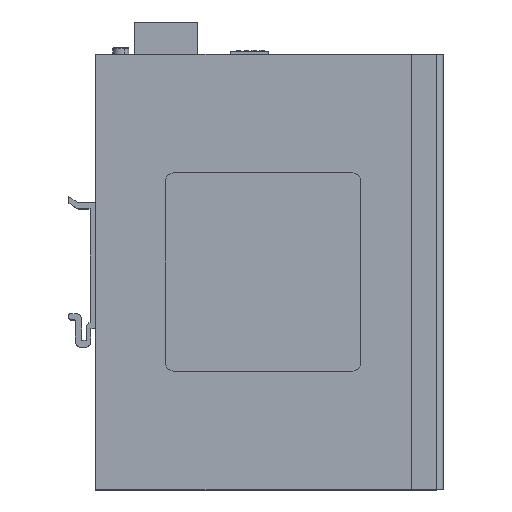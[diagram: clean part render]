
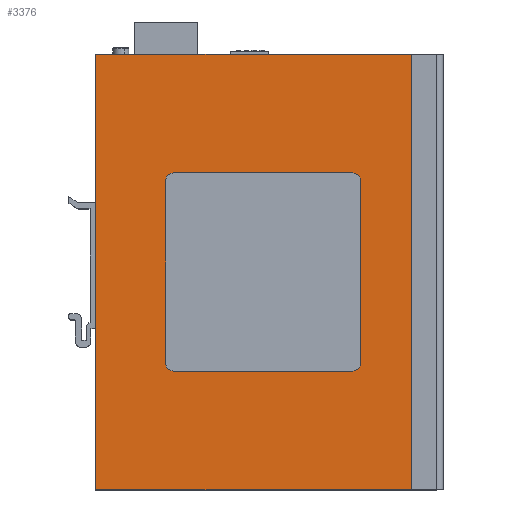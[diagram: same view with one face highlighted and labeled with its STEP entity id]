
A CAD part, top view. The second image highlights one B-rep face of the part: STEP entity #3376.
In plain terms, the highlighted planar face has unit normal (0, 0, 1).
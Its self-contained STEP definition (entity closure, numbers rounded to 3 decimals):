
#3376=ADVANCED_FACE('',(#7567,#7568),#5585,.F.);
#5585=PLANE('',#44245);
#7173=CIRCLE('',#44074,2.5);
#7174=CIRCLE('',#44077,2.5);
#7175=CIRCLE('',#44080,2.5);
#7176=CIRCLE('',#44083,2.5);
#7567=FACE_BOUND('',#8465,.T.);
#7568=FACE_BOUND('',#8466,.T.);
#8465=EDGE_LOOP('',(#14850,#14851,#14852,#14853,#14854,#14855,#14856,#14857));
#8466=EDGE_LOOP('',(#14858,#14859,#14860,#14861));
#14850=ORIENTED_EDGE('',*,*,#29167,.T.);
#14851=ORIENTED_EDGE('',*,*,#29165,.T.);
#14852=ORIENTED_EDGE('',*,*,#29163,.T.);
#14853=ORIENTED_EDGE('',*,*,#29161,.T.);
#14854=ORIENTED_EDGE('',*,*,#29159,.T.);
#14855=ORIENTED_EDGE('',*,*,#29157,.T.);
#14856=ORIENTED_EDGE('',*,*,#29155,.T.);
#14857=ORIENTED_EDGE('',*,*,#29152,.T.);
#14858=ORIENTED_EDGE('',*,*,#29376,.T.);
#14859=ORIENTED_EDGE('',*,*,#29369,.F.);
#14860=ORIENTED_EDGE('',*,*,#29168,.T.);
#14861=ORIENTED_EDGE('',*,*,#29359,.T.);
#24890=VERTEX_POINT('',#67130);
#24891=VERTEX_POINT('',#67131);
#24892=VERTEX_POINT('',#67136);
#24893=VERTEX_POINT('',#67140);
#24894=VERTEX_POINT('',#67144);
#24895=VERTEX_POINT('',#67148);
#24896=VERTEX_POINT('',#67152);
#24897=VERTEX_POINT('',#67156);
#24898=VERTEX_POINT('',#67162);
#24899=VERTEX_POINT('',#67163);
#24911=VERTEX_POINT('',#67843);
#24918=VERTEX_POINT('',#67864);
#29152=EDGE_CURVE('',#24890,#24891,#34702,.T.);
#29155=EDGE_CURVE('',#24892,#24890,#7173,.T.);
#29157=EDGE_CURVE('',#24893,#24892,#34706,.T.);
#29159=EDGE_CURVE('',#24894,#24893,#7174,.T.);
#29161=EDGE_CURVE('',#24895,#24894,#34709,.T.);
#29163=EDGE_CURVE('',#24896,#24895,#7175,.T.);
#29165=EDGE_CURVE('',#24897,#24896,#34712,.T.);
#29167=EDGE_CURVE('',#24891,#24897,#7176,.T.);
#29168=EDGE_CURVE('',#24898,#24899,#34714,.T.);
#29359=EDGE_CURVE('',#24899,#24911,#34899,.T.);
#29369=EDGE_CURVE('',#24898,#24918,#34907,.T.);
#29376=EDGE_CURVE('',#24911,#24918,#34912,.T.);
#34702=LINE('',#67129,#39781);
#34706=LINE('',#67139,#39785);
#34709=LINE('',#67147,#39788);
#34712=LINE('',#67155,#39791);
#34714=LINE('',#67161,#39793);
#34899=LINE('',#67844,#40010);
#34907=LINE('',#67863,#40018);
#34912=LINE('',#67877,#40023);
#39781=VECTOR('',#48620,1.);
#39785=VECTOR('',#48630,1.);
#39788=VECTOR('',#48639,1.);
#39791=VECTOR('',#48648,1.);
#39793=VECTOR('',#48656,1.);
#40010=VECTOR('',#49177,1.);
#40018=VECTOR('',#49195,1.);
#40023=VECTOR('',#49206,1.);
#44074=AXIS2_PLACEMENT_3D('',#67135,#48625,#48626);
#44077=AXIS2_PLACEMENT_3D('',#67143,#48634,#48635);
#44080=AXIS2_PLACEMENT_3D('',#67151,#48643,#48644);
#44083=AXIS2_PLACEMENT_3D('',#67159,#48652,#48653);
#44245=AXIS2_PLACEMENT_3D('',#67878,#49207,#49208);
#48620=DIRECTION('',(1.,0.,0.));
#48625=DIRECTION('',(0.,0.,-1.));
#48626=DIRECTION('',(-1.,0.,0.));
#48630=DIRECTION('',(0.,1.,0.));
#48634=DIRECTION('',(0.,0.,-1.));
#48635=DIRECTION('',(-1.,0.,0.));
#48639=DIRECTION('',(-1.,0.,0.));
#48643=DIRECTION('',(0.,0.,-1.));
#48644=DIRECTION('',(-1.,0.,0.));
#48648=DIRECTION('',(0.,-1.,0.));
#48652=DIRECTION('',(0.,0.,-1.));
#48653=DIRECTION('',(-1.,0.,0.));
#48656=DIRECTION('',(0.,-1.,0.));
#49177=DIRECTION('',(1.,0.,0.));
#49195=DIRECTION('',(1.,0.,0.));
#49206=DIRECTION('',(0.,1.,0.));
#49207=DIRECTION('',(0.,0.,-1.));
#49208=DIRECTION('',(1.,0.,0.));
#67129=CARTESIAN_POINT('',(-30.631,100.272,116.331));
#67130=CARTESIAN_POINT('',(-36.381,100.272,116.331));
#67131=CARTESIAN_POINT('',(20.619,100.272,116.331));
#67135=CARTESIAN_POINT('',(-36.381,97.772,116.331));
#67136=CARTESIAN_POINT('',(-38.881,97.772,116.331));
#67139=CARTESIAN_POINT('',(-38.881,123.772,116.331));
#67140=CARTESIAN_POINT('',(-38.881,39.772,116.331));
#67143=CARTESIAN_POINT('',(-36.381,39.772,116.331));
#67144=CARTESIAN_POINT('',(-36.381,37.272,116.331));
#67147=CARTESIAN_POINT('',(-30.631,37.272,116.331));
#67148=CARTESIAN_POINT('',(20.619,37.272,116.331));
#67151=CARTESIAN_POINT('',(20.619,39.772,116.331));
#67152=CARTESIAN_POINT('',(23.119,39.772,116.331));
#67155=CARTESIAN_POINT('',(23.119,123.772,116.331));
#67156=CARTESIAN_POINT('',(23.119,97.772,116.331));
#67159=CARTESIAN_POINT('',(20.619,97.772,116.331));
#67161=CARTESIAN_POINT('',(-61.131,123.772,116.331));
#67162=CARTESIAN_POINT('',(-61.131,138.022,116.331));
#67163=CARTESIAN_POINT('',(-61.131,-0.478,116.331));
#67843=CARTESIAN_POINT('',(39.369,-0.478,116.331));
#67844=CARTESIAN_POINT('',(9.369,-0.478,116.331));
#67863=CARTESIAN_POINT('',(9.369,138.022,116.331));
#67864=CARTESIAN_POINT('',(39.369,138.022,116.331));
#67877=CARTESIAN_POINT('',(39.369,68.772,116.331));
#67878=CARTESIAN_POINT('',(-30.631,123.772,116.331));
